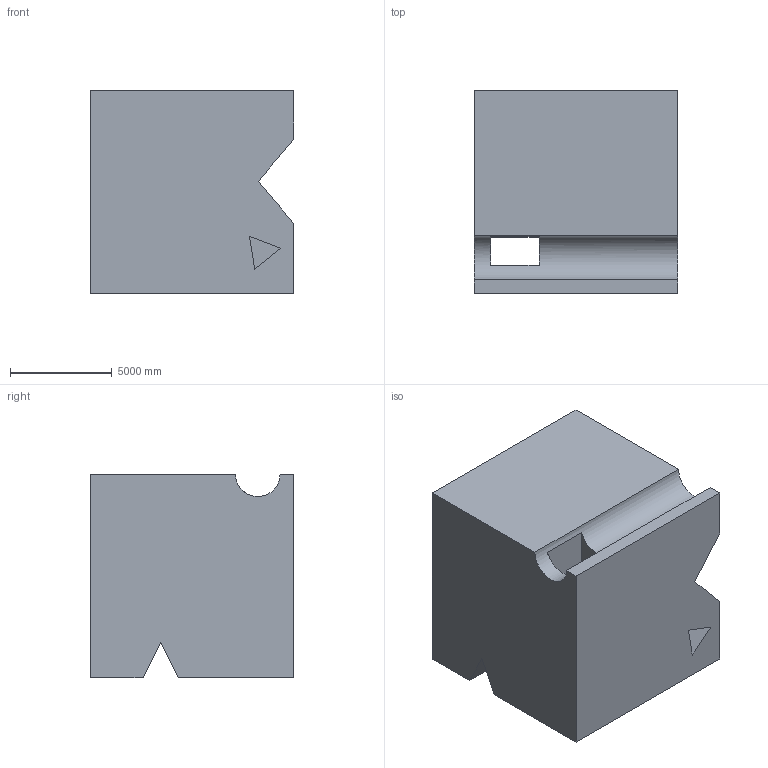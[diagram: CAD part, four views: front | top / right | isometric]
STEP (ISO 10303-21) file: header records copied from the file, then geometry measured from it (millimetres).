
FILE_DESCRIPTION (( 'STEP AP203' ), '1' );
FILE_NAME ('1453.STEP', '2022-08-18T14:34:03', ( 'user' ), ( '' ), 'SwSTEP 2.0', 'SolidWorks 2021', '' );
FILE_SCHEMA (( 'CONFIG_CONTROL_DESIGN' ));
Length unit declared in the file: centimetre
Products named in the file (1): 1453
Bounding box: 10000 x 10000 x 10000 mm (x, y, z)
Volume: 895934613051.3 mm3; surface area: 711886815 mm2
Topology: 1 solids, 1 shells, 22 faces, 57 edges, 38 vertices
Faces by surface type: plane 21, cylinder 1
Entity records: 746 total; most frequent: CARTESIAN_POINT 118, ORIENTED_EDGE 114, DIRECTION 107, EDGE_CURVE 57, VECTOR 53, LINE 53, VERTEX_POINT 38, AXIS2_PLACEMENT_3D 27
